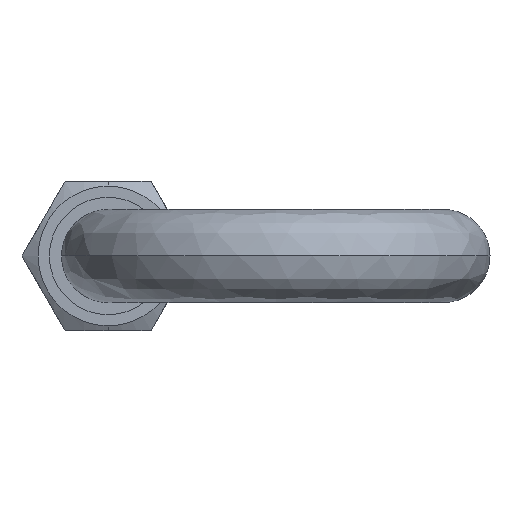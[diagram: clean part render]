
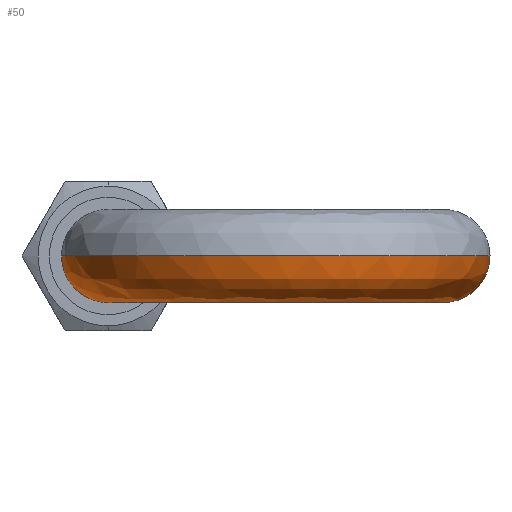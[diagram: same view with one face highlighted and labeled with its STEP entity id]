
A CAD part, left-side view. The second image highlights one B-rep face of the part: STEP entity #50.
In plain terms, the highlighted free-form (B-spline) face has degree [3, 3] with [7, 4] control points.
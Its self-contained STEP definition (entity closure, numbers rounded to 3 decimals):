
#5 = EDGE_CURVE ( 'NONE', #112, #1334, #223, .T. ) ;
#37 = EDGE_LOOP ( 'NONE', ( #681, #490, #109, #125, #1397, #1372 ) ) ;
#50 = ADVANCED_FACE ( 'NONE', ( #775 ), #776, .F. ) ;
#109 = ORIENTED_EDGE ( 'NONE', *, *, #5, .T. ) ;
#112 = VERTEX_POINT ( 'NONE', #648 ) ;
#125 = ORIENTED_EDGE ( 'NONE', *, *, #1395, .F. ) ;
#175 = VERTEX_POINT ( 'NONE', #407 ) ;
#223 = CIRCLE ( 'NONE', #224, 11.5 ) ;
#224 = AXIS2_PLACEMENT_3D ( 'NONE', #225, #226, #227 ) ;
#225 = CARTESIAN_POINT ( 'NONE',  ( -15.25, 0., 0. ) ) ;
#226 = DIRECTION ( 'NONE',  ( 0., 0., -1. ) ) ;
#227 = DIRECTION ( 'NONE',  ( 0., -1., 0. ) ) ;
#240 = CIRCLE ( 'NONE', #241, 2.5 ) ;
#241 = AXIS2_PLACEMENT_3D ( 'NONE', #242, #244, #245 ) ;
#242 = CARTESIAN_POINT ( 'NONE',  ( -15.25, 9., 0. ) ) ;
#244 = DIRECTION ( 'NONE',  ( 1., 0., 0. ) ) ;
#245 = DIRECTION ( 'NONE',  ( 0., 1., 0. ) ) ;
#407 = CARTESIAN_POINT ( 'NONE',  ( -15.25, 6.5, 0. ) ) ;
#476 = CARTESIAN_POINT ( 'NONE',  ( -15.25, 11.5, 0. ) ) ;
#490 = ORIENTED_EDGE ( 'NONE', *, *, #958, .T. ) ;
#541 = VERTEX_POINT ( 'NONE', #716 ) ;
#573 = CIRCLE ( 'NONE', #574, 2.5 ) ;
#574 = AXIS2_PLACEMENT_3D ( 'NONE', #575, #576, #580 ) ;
#575 = CARTESIAN_POINT ( 'NONE',  ( -15.25, -9., 0. ) ) ;
#576 = DIRECTION ( 'NONE',  ( -1., 0., 0. ) ) ;
#580 = DIRECTION ( 'NONE',  ( 0., 1., 0. ) ) ;
#648 = CARTESIAN_POINT ( 'NONE',  ( -15.25, -11.5, 0. ) ) ;
#681 = ORIENTED_EDGE ( 'NONE', *, *, #1339, .T. ) ;
#697 = CIRCLE ( 'NONE', #698, 6.5 ) ;
#698 = AXIS2_PLACEMENT_3D ( 'NONE', #699, #700, #701 ) ;
#699 = CARTESIAN_POINT ( 'NONE',  ( -15.25, 0., 0. ) ) ;
#700 = DIRECTION ( 'NONE',  ( 0., 0., 1. ) ) ;
#701 = DIRECTION ( 'NONE',  ( 0., -1., 0. ) ) ;
#716 = CARTESIAN_POINT ( 'NONE',  ( -15.25, -9., -2.5 ) ) ;
#744 = CARTESIAN_POINT ( 'NONE',  ( -15.25, 9., -2.5 ) ) ;
#775 = FACE_OUTER_BOUND ( 'NONE', #37, .T. ) ;
#776 =( BOUNDED_SURFACE ( )  B_SPLINE_SURFACE ( 3, 3, ( 
 ( #777, #778, #779, #780 ),
 ( #781, #782, #783, #784 ),
 ( #785, #786, #787, #788 ),
 ( #789, #790, #791, #792 ),
 ( #793, #794, #795, #796 ),
 ( #797, #798, #799, #800 ),
 ( #801, #802, #803, #804 ) ),
 .UNSPECIFIED., .F., .F., .T. ) 
 B_SPLINE_SURFACE_WITH_KNOTS ( ( 4, 3, 4 ),
 ( 4, 4 ),
 ( 0.021, 0.5, 0.979 ),
 ( 0., 1. ),
 .UNSPECIFIED. ) 
 GEOMETRIC_REPRESENTATION_ITEM ( )  RATIONAL_B_SPLINE_SURFACE ( (
 ( 0.974, 0.325, 0.325, 0.974),
 ( 0.79, 0.263, 0.263, 0.79),
 ( 0.799, 0.266, 0.266, 0.799),
 ( 1., 0.333, 0.333, 1.),
 ( 0.799, 0.266, 0.266, 0.799),
 ( 0.79, 0.263, 0.263, 0.79),
 ( 0.974, 0.325, 0.325, 0.974) ) ) 
 REPRESENTATION_ITEM ( '' )  SURFACE ( )  );
#777 = CARTESIAN_POINT ( 'NONE',  ( -15.25, 6.5, 0. ) ) ;
#778 = CARTESIAN_POINT ( 'NONE',  ( -28.25, 6.5, 0. ) ) ;
#779 = CARTESIAN_POINT ( 'NONE',  ( -28.25, -6.5, 0. ) ) ;
#780 = CARTESIAN_POINT ( 'NONE',  ( -15.25, -6.5, 0. ) ) ;
#781 = CARTESIAN_POINT ( 'NONE',  ( -15.25, 6.5, -1.472 ) ) ;
#782 = CARTESIAN_POINT ( 'NONE',  ( -28.25, 6.5, -1.472 ) ) ;
#783 = CARTESIAN_POINT ( 'NONE',  ( -28.25, -6.5, -1.472 ) ) ;
#784 = CARTESIAN_POINT ( 'NONE',  ( -15.25, -6.5, -1.472 ) ) ;
#785 = CARTESIAN_POINT ( 'NONE',  ( -15.25, 7.543, -2.5 ) ) ;
#786 = CARTESIAN_POINT ( 'NONE',  ( -30.337, 7.543, -2.5 ) ) ;
#787 = CARTESIAN_POINT ( 'NONE',  ( -30.337, -7.543, -2.5 ) ) ;
#788 = CARTESIAN_POINT ( 'NONE',  ( -15.25, -7.543, -2.5 ) ) ;
#789 = CARTESIAN_POINT ( 'NONE',  ( -15.25, 9., -2.5 ) ) ;
#790 = CARTESIAN_POINT ( 'NONE',  ( -33.25, 9., -2.5 ) ) ;
#791 = CARTESIAN_POINT ( 'NONE',  ( -33.25, -9., -2.5 ) ) ;
#792 = CARTESIAN_POINT ( 'NONE',  ( -15.25, -9., -2.5 ) ) ;
#793 = CARTESIAN_POINT ( 'NONE',  ( -15.25, 10.457, -2.5 ) ) ;
#794 = CARTESIAN_POINT ( 'NONE',  ( -36.163, 10.457, -2.5 ) ) ;
#795 = CARTESIAN_POINT ( 'NONE',  ( -36.163, -10.457, -2.5 ) ) ;
#796 = CARTESIAN_POINT ( 'NONE',  ( -15.25, -10.457, -2.5 ) ) ;
#797 = CARTESIAN_POINT ( 'NONE',  ( -15.25, 11.5, -1.472 ) ) ;
#798 = CARTESIAN_POINT ( 'NONE',  ( -38.25, 11.5, -1.472 ) ) ;
#799 = CARTESIAN_POINT ( 'NONE',  ( -38.25, -11.5, -1.472 ) ) ;
#800 = CARTESIAN_POINT ( 'NONE',  ( -15.25, -11.5, -1.472 ) ) ;
#801 = CARTESIAN_POINT ( 'NONE',  ( -15.25, 11.5, 0. ) ) ;
#802 = CARTESIAN_POINT ( 'NONE',  ( -38.25, 11.5, 0. ) ) ;
#803 = CARTESIAN_POINT ( 'NONE',  ( -38.25, -11.5, 0. ) ) ;
#804 = CARTESIAN_POINT ( 'NONE',  ( -15.25, -11.5, 0. ) ) ;
#844 = CARTESIAN_POINT ( 'NONE',  ( -15.25, -6.5, 0. ) ) ;
#889 = CIRCLE ( 'NONE', #890, 2.5 ) ;
#890 = AXIS2_PLACEMENT_3D ( 'NONE', #891, #892, #893 ) ;
#891 = CARTESIAN_POINT ( 'NONE',  ( -15.25, 9., 0. ) ) ;
#892 = DIRECTION ( 'NONE',  ( 1., 0., 0. ) ) ;
#893 = DIRECTION ( 'NONE',  ( 0., 1., 0. ) ) ;
#903 = EDGE_CURVE ( 'NONE', #175, #1363, #889, .T. ) ;
#908 = CIRCLE ( 'NONE', #909, 2.5 ) ;
#909 = AXIS2_PLACEMENT_3D ( 'NONE', #910, #911, #912 ) ;
#910 = CARTESIAN_POINT ( 'NONE',  ( -15.25, -9., 0. ) ) ;
#911 = DIRECTION ( 'NONE',  ( -1., 0., 0. ) ) ;
#912 = DIRECTION ( 'NONE',  ( 0., 1., 0. ) ) ;
#958 = EDGE_CURVE ( 'NONE', #541, #112, #908, .T. ) ;
#1334 = VERTEX_POINT ( 'NONE', #476 ) ;
#1339 = EDGE_CURVE ( 'NONE', #1381, #541, #573, .T. ) ;
#1355 = EDGE_CURVE ( 'NONE', #175, #1381, #697, .T. ) ;
#1363 = VERTEX_POINT ( 'NONE', #744 ) ;
#1372 = ORIENTED_EDGE ( 'NONE', *, *, #1355, .T. ) ;
#1381 = VERTEX_POINT ( 'NONE', #844 ) ;
#1395 = EDGE_CURVE ( 'NONE', #1363, #1334, #240, .T. ) ;
#1397 = ORIENTED_EDGE ( 'NONE', *, *, #903, .F. ) ;
